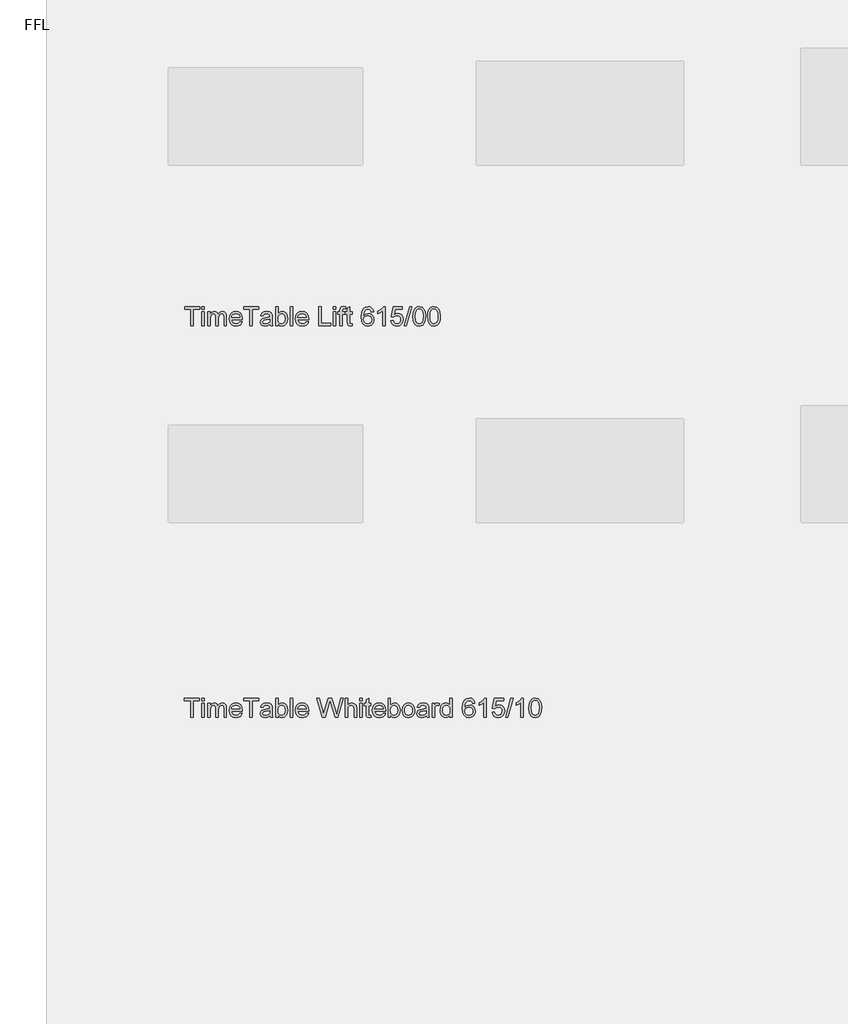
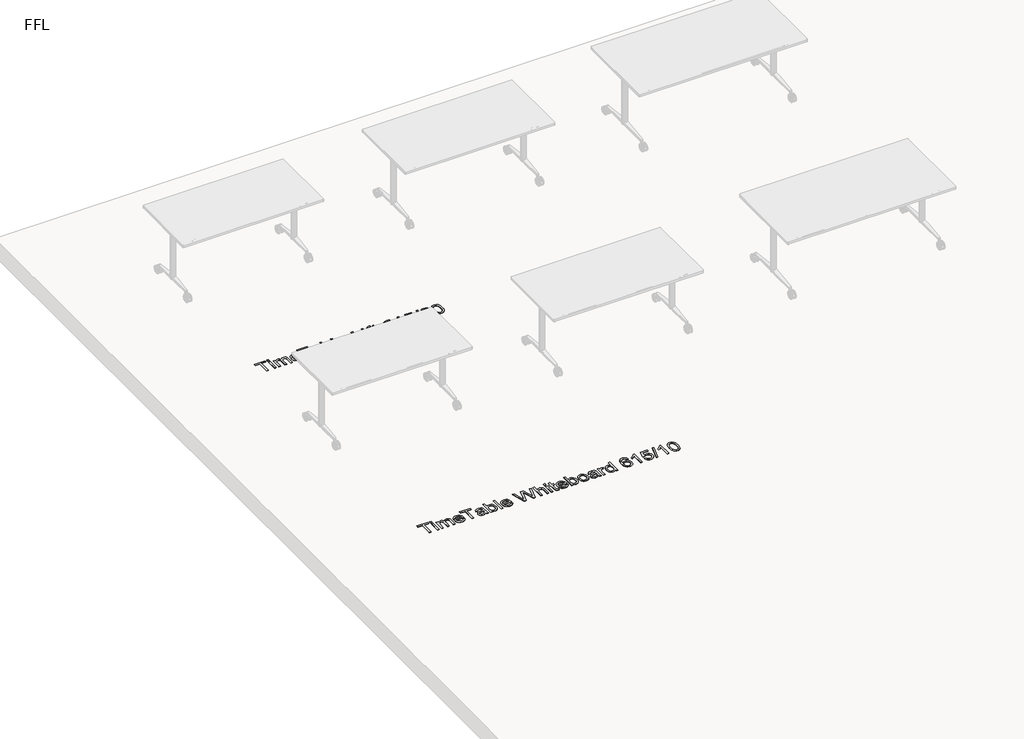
# One storey, part 5 of 5: 2 proxies.
"""IFC4 building model written with IfcOpenShell, lengths in millimetres."""

from ifc_helpers import new_model, si_unit, origin, origin_with_axes, place, context, project, spatial, polyline, outline, extrude, element, save

model = new_model("IFC4")

# Units and contexts
model_context = context("Model", 3, world=origin())
ifc_project = project(units=[si_unit("LENGTHUNIT", "METRE", prefix="MILLI")], contexts=[model_context])

# Site, building, storey
site = spatial("IfcSite", under=ifc_project)
building = spatial("IfcBuilding", under=site)
storey = spatial("IfcBuildingStorey", under=building, Name="FFL", Elevation=0.0)

# Proxies
placement = place(None, origin())
element("IfcBuildingElementProxy", 1, Name="150mm Arial", ObjectType="150mm Arial", at=placement, inside=storey, context=model_context, shape_type="SweptSolid", body=[
    extrude(outline(polyline([(-19155.1883904, 38735.6240351), (-19155.1883904, 38864.8548043), (-19203.6499289, 38864.8548043), (-19203.6499289, 38883.3163428), (-19088.2653135, 38883.3163428), (-19088.2653135, 38864.8548043), (-19136.726852, 38864.8548043), (-19136.726852, 38735.6240351), (-19155.1883904, 38735.6240351)])), origin_with_axes(), (0.0, 0.0, 1.0), 5.0),
    extrude(outline(polyline([(-19069.803775, 38864.8548043), (-19069.803775, 38883.3163428), (-19051.3422366, 38883.3163428), (-19051.3422366, 38864.8548043), (-19069.803775, 38864.8548043)])), origin_with_axes(), (0.0, 0.0, 1.0), 5.0),
    extrude(outline(polyline([(-19069.803775, 38735.6240351), (-19069.803775, 38844.0855736), (-19051.3422366, 38844.0855736), (-19051.3422366, 38735.6240351), (-19069.803775, 38735.6240351)])), origin_with_axes(), (0.0, 0.0, 1.0), 5.0),
    extrude(outline(polyline([(-19023.6499289, 38735.6240351), (-19023.6499289, 38844.0855736), (-19005.1883904, 38844.0855736), (-19005.1883904, 38826.2370159), (-18992.4960827, 38840.8584101), (-18974.4311789, 38846.3932659), (-18964.163751, 38844.9825086), (-18955.9335827, 38840.750237), (-18945.7653135, 38824.9389389), (-18931.3602654, 38841.0296841), (-18913.1691597, 38846.3932659), (-18899.2914553, 38844.1621961), (-18889.0285347, 38837.468987), (-18882.686888, 38826.13335), (-18880.5730058, 38809.9749966), (-18880.5730058, 38735.6240351), (-18899.0345443, 38735.6240351), (-18899.0345443, 38802.0423043), (-18900.7472847, 38817.4569678), (-18906.9492077, 38825.047112), (-18917.4960827, 38827.9317274), (-18927.4975851, 38826.0837707), (-18935.6511308, 38820.5399005), (-18941.0733063, 38810.9215111), (-18942.8806981, 38796.8499966), (-18942.8806981, 38735.6240351), (-18961.3422366, 38735.6240351), (-18961.3422366, 38804.0975928), (-18965.6150731, 38821.9822082), (-18971.2535948, 38826.4443476), (-18979.6234866, 38827.9317274), (-18993.289352, 38823.9653812), (-19002.3758904, 38812.3548043), (-19005.1883904, 38790.3235543), (-19005.1883904, 38735.6240351), (-19023.6499289, 38735.6240351)])), origin_with_axes(), (0.0, 0.0, 1.0), 5.0),
    extrude(outline(polyline([(-18776.9431981, 38767.9317274), (-18758.8422366, 38765.6240351), (-18765.3641717, 38751.985213), (-18775.7713231, 38741.7899005), (-18789.8293159, 38735.4347322), (-18807.303775, 38733.3163428), (-18828.9654337, 38736.9716913), (-18845.633102, 38747.937737), (-18856.2611068, 38765.5023404), (-18859.803775, 38788.953362), (-18856.2250491, 38813.1931457), (-18845.4888712, 38831.3211505), (-18829.0465635, 38842.625237), (-18808.3494481, 38846.3932659), (-18788.296864, 38842.6342514), (-18772.273727, 38831.3572082), (-18761.7674169, 38813.2652611), (-18758.2653135, 38789.0615351), (-18758.3734866, 38784.0855736), (-18841.3422366, 38784.0855736), (-18838.1466236, 38770.266463), (-18830.7232462, 38760.1072082), (-18820.0096044, 38753.860213), (-18806.9431981, 38751.7778812), (-18788.8422366, 38755.6360543), (-18776.9431981, 38767.9317274)]), holes=[polyline([(-18841.3422366, 38802.547112), (-18776.726852, 38802.547112), (-18779.2238472, 38812.3007178), (-18784.1186789, 38819.2778812), (-18794.8819, 38825.7682659), (-18808.4215635, 38827.9317274), (-18820.8659746, 38826.2054654), (-18831.1559385, 38821.0266793), (-18838.3088832, 38812.9542635), (-18841.3422366, 38802.547112)])]), origin_with_axes(), (0.0, 0.0, 1.0), 5.0),
    extrude(outline(polyline([(-18700.5730058, 38735.6240351), (-18700.5730058, 38864.8548043), (-18749.0345443, 38864.8548043), (-18749.0345443, 38883.3163428), (-18633.6499289, 38883.3163428), (-18633.6499289, 38864.8548043), (-18682.1114673, 38864.8548043), (-18682.1114673, 38735.6240351), (-18700.5730058, 38735.6240351)])), origin_with_axes(), (0.0, 0.0, 1.0), 5.0),
    extrude(outline(polyline([(-18545.9576212, 38749.4701889), (-18563.8602654, 38736.9581697), (-18583.6379097, 38733.3163428), (-18599.0660948, 38735.5068476), (-18610.4468039, 38742.078362), (-18617.4645323, 38752.0573284), (-18619.803775, 38764.4701889), (-18616.2701212, 38779.0735543), (-18606.9852654, 38789.6745159), (-18594.0585827, 38795.7322082), (-18578.085025, 38798.5086505), (-18546.0657943, 38804.8548043), (-18545.9576212, 38808.9653812), (-18547.2286548, 38817.2045639), (-18551.0417558, 38822.5951889), (-18559.5694, 38826.5975928), (-18571.4504097, 38827.9317274), (-18590.1282943, 38824.3800447), (-18599.0345443, 38811.7778812), (-18617.4960827, 38814.0855736), (-18609.5093039, 38832.1144197), (-18593.4275731, 38842.6793236), (-18569.070602, 38846.3932659), (-18546.6968039, 38843.1120159), (-18534.0585827, 38834.8728332), (-18528.397525, 38822.3427851), (-18527.4960827, 38806.1889389), (-18527.4960827, 38783.2201889), (-18526.5585827, 38751.1468716), (-18522.8806981, 38735.6240351), (-18541.3422366, 38735.6240351), (-18545.9576212, 38749.4701889)]), holes=[polyline([(-18545.9576212, 38786.3932659), (-18575.741275, 38780.7322082), (-18591.6246885, 38777.7394197), (-18598.8181981, 38772.8716312), (-18601.3422366, 38765.7682659), (-18595.8434385, 38755.7802851), (-18579.7076212, 38751.7778812), (-18561.0297366, 38756.1949486), (-18548.9864673, 38766.8860543), (-18546.0657943, 38781.1649005), (-18545.9576212, 38786.3932659)])]), origin_with_axes(), (0.0, 0.0, 1.0), 5.0),
    extrude(outline(polyline([(-18483.6499289, 38735.6240351), (-18502.1114673, 38735.6240351), (-18502.1114673, 38883.3163428), (-18483.6499289, 38883.3163428), (-18483.6499289, 38828.5447082), (-18470.7232462, 38841.9311264), (-18454.6595443, 38846.3932659), (-18436.1619481, 38842.3728332), (-18421.8109866, 38831.0687466), (-18412.9948808, 38813.4906216), (-18409.803775, 38791.4774005), (-18413.1075611, 38766.8319678), (-18423.0189193, 38748.4966312), (-18437.5636909, 38737.1114149), (-18454.7677173, 38733.3163428), (-18471.1829818, 38738.2111745), (-18483.6499289, 38752.8956697), (-18483.6499289, 38735.6240351)]), holes=[polyline([(-18483.6499289, 38790.6120159), (-18482.3879097, 38775.2153812), (-18478.601852, 38764.7947082), (-18468.929376, 38755.032088), (-18456.3542558, 38751.7778812), (-18445.6992077, 38754.1757178), (-18436.5946404, 38761.3692274), (-18430.3476452, 38773.313338), (-18428.2653135, 38789.9629774), (-18430.2620082, 38806.8560062), (-18436.2520923, 38818.6649005), (-18445.0727053, 38825.6150207), (-18455.5609866, 38827.9317274), (-18466.2160347, 38825.5338909), (-18475.320602, 38818.3403812), (-18481.5675972, 38806.6126168), (-18483.6499289, 38790.6120159)])]), origin_with_axes(), (0.0, 0.0, 1.0), 5.0),
    extrude(outline(polyline([(-18389.0345443, 38735.6240351), (-18389.0345443, 38883.3163428), (-18370.5730058, 38883.3163428), (-18370.5730058, 38735.6240351), (-18389.0345443, 38735.6240351)])), origin_with_axes(), (0.0, 0.0, 1.0), 5.0),
    extrude(outline(polyline([(-18266.9431981, 38767.9317274), (-18248.8422366, 38765.6240351), (-18255.3641717, 38751.985213), (-18265.7713231, 38741.7899005), (-18279.8293159, 38735.4347322), (-18297.303775, 38733.3163428), (-18318.9654337, 38736.9716913), (-18335.633102, 38747.937737), (-18346.2611068, 38765.5023404), (-18349.803775, 38788.953362), (-18346.2250491, 38813.1931457), (-18335.4888712, 38831.3211505), (-18319.0465635, 38842.625237), (-18298.3494481, 38846.3932659), (-18278.296864, 38842.6342514), (-18262.273727, 38831.3572082), (-18251.7674169, 38813.2652611), (-18248.2653135, 38789.0615351), (-18248.3734866, 38784.0855736), (-18331.3422366, 38784.0855736), (-18328.1466236, 38770.266463), (-18320.7232462, 38760.1072082), (-18310.0096044, 38753.860213), (-18296.9431981, 38751.7778812), (-18278.8422366, 38755.6360543), (-18266.9431981, 38767.9317274)]), holes=[polyline([(-18331.3422366, 38802.547112), (-18266.726852, 38802.547112), (-18269.2238472, 38812.3007178), (-18274.1186789, 38819.2778812), (-18284.8819, 38825.7682659), (-18298.4215635, 38827.9317274), (-18310.8659746, 38826.2054654), (-18321.1559385, 38821.0266793), (-18328.3088832, 38812.9542635), (-18331.3422366, 38802.547112)])]), origin_with_axes(), (0.0, 0.0, 1.0), 5.0),
    extrude(outline(polyline([(-18169.803775, 38735.6240351), (-18169.803775, 38883.3163428), (-18151.3422366, 38883.3163428), (-18151.3422366, 38754.0855736), (-18077.4960827, 38754.0855736), (-18077.4960827, 38735.6240351), (-18169.803775, 38735.6240351)])), origin_with_axes(), (0.0, 0.0, 1.0), 5.0),
    extrude(outline(polyline([(-18059.0345443, 38864.8548043), (-18059.0345443, 38883.3163428), (-18040.5730058, 38883.3163428), (-18040.5730058, 38864.8548043), (-18059.0345443, 38864.8548043)])), origin_with_axes(), (0.0, 0.0, 1.0), 5.0),
    extrude(outline(polyline([(-18059.0345443, 38735.6240351), (-18059.0345443, 38844.0855736), (-18040.5730058, 38844.0855736), (-18040.5730058, 38735.6240351), (-18059.0345443, 38735.6240351)])), origin_with_axes(), (0.0, 0.0, 1.0), 5.0),
    extrude(outline(polyline([(-18008.2653135, 38735.6240351), (-18008.2653135, 38825.6240351), (-18024.4191597, 38825.6240351), (-18024.4191597, 38844.0855736), (-18008.2653135, 38844.0855736), (-18008.2653135, 38855.0110543), (-18006.3181981, 38870.4076889), (-17996.8710827, 38881.4052851), (-17978.2653135, 38885.6240351), (-17961.4263712, 38883.6048043), (-17964.1306981, 38866.297112), (-17974.7677173, 38867.1624966), (-17986.3963231, 38864.0975928), (-17989.803775, 38852.6673043), (-17989.803775, 38844.0855736), (-17969.0345443, 38844.0855736), (-17969.0345443, 38825.6240351), (-17989.803775, 38825.6240351), (-17989.803775, 38735.6240351), (-18008.2653135, 38735.6240351)])), origin_with_axes(), (0.0, 0.0, 1.0), 5.0),
    extrude(outline(polyline([(-17913.6499289, 38751.0206697), (-17911.3422366, 38735.0831697), (-17925.1523327, 38733.3163428), (-17940.6210827, 38736.3812466), (-17948.3374289, 38744.422112), (-17950.5730058, 38765.3716312), (-17950.5730058, 38825.6240351), (-17964.4191597, 38825.6240351), (-17964.4191597, 38844.0855736), (-17950.5730058, 38844.0855736), (-17950.5730058, 38870.4437466), (-17932.1114673, 38881.297112), (-17932.1114673, 38844.0855736), (-17913.6499289, 38844.0855736), (-17913.6499289, 38825.6240351), (-17932.1114673, 38825.6240351), (-17932.1114673, 38765.9124966), (-17931.1379097, 38756.3932659), (-17927.9828616, 38753.0218716), (-17921.6907943, 38751.7778812), (-17913.6499289, 38751.0206697)])), origin_with_axes(), (0.0, 0.0, 1.0), 5.0),
    extrude(outline(polyline([(-17747.4960827, 38844.0855736), (-17765.9576212, 38841.7778812), (-17772.9528135, 38857.1745159), (-17781.3272125, 38862.9347322), (-17791.4504097, 38864.8548043), (-17808.1090635, 38860.3836505), (-17820.711227, 38843.5987947), (-17824.5378496, 38829.8472923), (-17825.9576212, 38810.6961505), (-17809.6775731, 38825.4257178), (-17789.5032943, 38830.2394197), (-17772.4480058, 38826.9491553), (-17758.133102, 38817.078362), (-17748.4245683, 38801.9972322), (-17745.1883904, 38783.0759582), (-17746.7118279, 38769.8563067), (-17751.2821404, 38757.6011986), (-17758.5207222, 38747.2075687), (-17768.0489673, 38739.5723524), (-17779.4341837, 38734.8803452), (-17792.2436789, 38733.3163428), (-17813.1886909, 38737.4629774), (-17829.8698808, 38749.9028812), (-17840.7818399, 38771.8620159), (-17844.4191597, 38804.5663428), (-17840.3806981, 38841.3361745), (-17828.2653135, 38866.4774005), (-17811.7238472, 38879.1066072), (-17790.2965635, 38883.3163428), (-17774.0976452, 38880.7111745), (-17761.1258904, 38872.8956697), (-17752.039352, 38860.4828091), (-17747.4960827, 38844.0855736)]), holes=[polyline([(-17825.9576212, 38783.3644197), (-17821.6847847, 38767.3728332), (-17810.3266116, 38755.7622562), (-17793.6859866, 38751.7778812), (-17781.5029938, 38753.8421841), (-17771.9251693, 38760.0350928), (-17765.718739, 38769.7706697), (-17763.6499289, 38782.4629774), (-17765.6916957, 38794.6459702), (-17771.8169962, 38803.9353332), (-17781.5570803, 38809.8172442), (-17794.4431981, 38811.7778812), (-17806.6081621, 38809.8172442), (-17816.7809385, 38803.9353332), (-17823.6634505, 38794.8713308), (-17825.9576212, 38783.3644197)])]), origin_with_axes(), (0.0, 0.0, 1.0), 5.0),
    extrude(outline(polyline([(-17659.803775, 38735.6240351), (-17678.2653135, 38735.6240351), (-17678.2653135, 38850.7201889), (-17695.7532943, 38838.2622562), (-17715.1883904, 38828.9413428), (-17715.1883904, 38846.3932659), (-17688.1270923, 38863.6649005), (-17671.7028135, 38883.3163428), (-17659.803775, 38883.3163428), (-17659.803775, 38735.6240351)])), origin_with_axes(), (0.0, 0.0, 1.0), 5.0),
    extrude(outline(polyline([(-17615.9576212, 38774.8548043), (-17597.4960827, 38777.1624966), (-17594.1066597, 38766.0792635), (-17588.1931981, 38758.1420639), (-17579.7827414, 38753.3689269), (-17568.9023327, 38751.7778812), (-17555.6691597, 38753.9909221), (-17545.7532943, 38760.6300447), (-17539.5603856, 38770.9290231), (-17537.4960827, 38784.1216312), (-17539.4296765, 38796.5435062), (-17545.2304577, 38806.0447082), (-17554.9434986, 38812.0753572), (-17568.6138712, 38814.0855736), (-17584.8218039, 38810.8764389), (-17595.1883904, 38802.547112), (-17613.6499289, 38804.8548043), (-17597.4960827, 38881.0086505), (-17525.9576212, 38881.0086505), (-17525.9576212, 38862.547112), (-17582.5681981, 38862.547112), (-17590.4648327, 38821.8740351), (-17577.2767318, 38829.8788428), (-17563.4576212, 38832.547112), (-17546.2085226, 38829.2388187), (-17531.8891116, 38819.3139389), (-17522.2481861, 38804.187737), (-17519.0345443, 38785.2754774), (-17521.9281741, 38766.8139389), (-17530.6090635, 38751.0206697), (-17547.2316597, 38737.7424245), (-17568.9744481, 38733.3163428), (-17587.1069601, 38736.1603933), (-17601.5525731, 38744.6925447), (-17611.4549169, 38757.9212106), (-17615.9576212, 38774.8548043)])), origin_with_axes(), (0.0, 0.0, 1.0), 5.0),
    extrude(outline(polyline([(-17512.1114673, 38735.6240351), (-17470.5730058, 38883.3163428), (-17453.914352, 38883.3163428), (-17495.4528135, 38735.6240351), (-17512.1114673, 38735.6240351)])), origin_with_axes(), (0.0, 0.0, 1.0), 5.0),
    extrude(outline(polyline([(-17445.1883904, 38808.2802851), (-17443.8317198, 38831.9206096), (-17439.7617077, 38850.7742755), (-17433.0189193, 38865.1297442), (-17423.6439193, 38875.2754774), (-17411.5690996, 38881.3061264), (-17396.726852, 38883.3163428), (-17375.164352, 38878.5567274), (-17360.272525, 38864.8367755), (-17351.6186789, 38842.9858139), (-17348.2653135, 38808.2802851), (-17349.6084625, 38784.7751769), (-17353.6379097, 38765.9665832), (-17360.3401332, 38751.5975928), (-17369.7016116, 38741.4112947), (-17381.8034746, 38735.3400808), (-17396.726852, 38733.3163428), (-17415.9095443, 38736.8319678), (-17430.476852, 38747.3788428), (-17441.5105058, 38772.3578091), (-17445.1883904, 38808.2802851)]), holes=[polyline([(-17426.726852, 38808.3163428), (-17424.5633904, 38779.2763788), (-17418.0730058, 38762.468987), (-17408.4095443, 38754.4506577), (-17396.726852, 38751.7778812), (-17385.0441597, 38754.4596721), (-17375.3806981, 38762.5050447), (-17368.8903135, 38779.321451), (-17366.726852, 38808.3163428), (-17368.8181981, 38836.7027611), (-17375.0922366, 38853.640862), (-17384.7376693, 38862.0513187), (-17396.9431981, 38864.8548043), (-17408.4996885, 38862.3848524), (-17417.7845443, 38854.9749966), (-17424.491275, 38836.9822082), (-17426.726852, 38808.3163428)])]), origin_with_axes(), (0.0, 0.0, 1.0), 5.0),
    extrude(outline(polyline([(-17332.1114673, 38808.2802851), (-17330.7547967, 38831.9206096), (-17326.6847847, 38850.7742755), (-17319.9419962, 38865.1297442), (-17310.5669962, 38875.2754774), (-17298.4921765, 38881.3061264), (-17283.6499289, 38883.3163428), (-17262.0874289, 38878.5567274), (-17247.195602, 38864.8367755), (-17238.5417558, 38842.9858139), (-17235.1883904, 38808.2802851), (-17236.5315395, 38784.7751769), (-17240.5609866, 38765.9665832), (-17247.2632101, 38751.5975928), (-17256.6246885, 38741.4112947), (-17268.7265515, 38735.3400808), (-17283.6499289, 38733.3163428), (-17302.8326212, 38736.8319678), (-17317.3999289, 38747.3788428), (-17328.4335827, 38772.3578091), (-17332.1114673, 38808.2802851)]), holes=[polyline([(-17313.6499289, 38808.3163428), (-17311.4864673, 38779.2763788), (-17304.9960827, 38762.468987), (-17295.3326212, 38754.4506577), (-17283.6499289, 38751.7778812), (-17271.9672366, 38754.4596721), (-17262.303775, 38762.5050447), (-17255.8133904, 38779.321451), (-17253.6499289, 38808.3163428), (-17255.741275, 38836.7027611), (-17262.0153135, 38853.640862), (-17271.6607462, 38862.0513187), (-17283.866275, 38864.8548043), (-17295.4227654, 38862.3848524), (-17304.7076212, 38854.9749966), (-17311.414352, 38836.9822082), (-17313.6499289, 38808.3163428)])]), origin_with_axes(), (0.0, 0.0, 1.0), 5.0),
])
element("IfcBuildingElementProxy", 2, Name="150mm Arial", ObjectType="150mm Arial", at=placement, inside=storey, context=model_context, shape_type="SweptSolid", body=[
    extrude(outline(polyline([(-19155.3912892, 35721.8865096), (-19155.3912892, 35851.1172788), (-19203.8528277, 35851.1172788), (-19203.8528277, 35869.5788173), (-19088.4682123, 35869.5788173), (-19088.4682123, 35851.1172788), (-19136.9297507, 35851.1172788), (-19136.9297507, 35721.8865096), (-19155.3912892, 35721.8865096)])), origin_with_axes(), (0.0, 0.0, 1.0), 5.0),
    extrude(outline(polyline([(-19070.0066738, 35851.1172788), (-19070.0066738, 35869.5788173), (-19051.5451354, 35869.5788173), (-19051.5451354, 35851.1172788), (-19070.0066738, 35851.1172788)])), origin_with_axes(), (0.0, 0.0, 1.0), 5.0),
    extrude(outline(polyline([(-19070.0066738, 35721.8865096), (-19070.0066738, 35830.348048), (-19051.5451354, 35830.348048), (-19051.5451354, 35721.8865096), (-19070.0066738, 35721.8865096)])), origin_with_axes(), (0.0, 0.0, 1.0), 5.0),
    extrude(outline(polyline([(-19023.8528277, 35721.8865096), (-19023.8528277, 35830.348048), (-19005.3912892, 35830.348048), (-19005.3912892, 35812.4994903), (-18992.6989815, 35827.1208846), (-18974.6340777, 35832.6557403), (-18964.3666498, 35831.2449831), (-18956.1364815, 35827.0127115), (-18945.9682123, 35811.2014134), (-18931.5631642, 35827.2921586), (-18913.3720584, 35832.6557403), (-18899.4943541, 35830.4246706), (-18889.2314334, 35823.7314615), (-18882.8897868, 35812.3958245), (-18880.7759046, 35796.2374711), (-18880.7759046, 35721.8865096), (-18899.237443, 35721.8865096), (-18899.237443, 35788.3047788), (-18900.9501834, 35803.7194423), (-18907.1521065, 35811.3095865), (-18917.6989815, 35814.1942019), (-18927.7004839, 35812.3462451), (-18935.8540296, 35806.802375), (-18941.2762051, 35797.1839855), (-18943.0835969, 35783.1124711), (-18943.0835969, 35721.8865096), (-18961.5451354, 35721.8865096), (-18961.5451354, 35790.3600673), (-18965.8179719, 35808.2446826), (-18971.4564935, 35812.7068221), (-18979.8263854, 35814.1942019), (-18993.4922507, 35810.2278557), (-19002.5787892, 35798.6172788), (-19005.3912892, 35776.5860288), (-19005.3912892, 35721.8865096), (-19023.8528277, 35721.8865096)])), origin_with_axes(), (0.0, 0.0, 1.0), 5.0),
    extrude(outline(polyline([(-18777.1460969, 35754.1942019), (-18759.0451354, 35751.8865096), (-18765.5670704, 35738.2476875), (-18775.9742219, 35728.052375), (-18790.0322147, 35721.6972067), (-18807.5066738, 35719.5788173), (-18829.1683325, 35723.2341658), (-18845.8360007, 35734.2002115), (-18856.4640055, 35751.7648149), (-18860.0066738, 35775.2158365), (-18856.4279479, 35799.4556201), (-18845.69177, 35817.583625), (-18829.2494623, 35828.8877115), (-18808.5523469, 35832.6557403), (-18788.4997628, 35828.8967259), (-18772.4766257, 35817.6196826), (-18761.9703156, 35799.5277355), (-18758.4682123, 35775.3240096), (-18758.5763854, 35770.348048), (-18841.5451354, 35770.348048), (-18838.3495224, 35756.5289375), (-18830.926145, 35746.3696826), (-18820.2125031, 35740.1226875), (-18807.1460969, 35738.0403557), (-18789.0451354, 35741.8985288), (-18777.1460969, 35754.1942019)]), holes=[polyline([(-18841.5451354, 35788.8095865), (-18776.9297507, 35788.8095865), (-18779.4267459, 35798.5631923), (-18784.3215777, 35805.5403557), (-18795.0847988, 35812.0307403), (-18808.6244623, 35814.1942019), (-18821.0688733, 35812.4679399), (-18831.3588373, 35807.2891538), (-18838.511782, 35799.2167379), (-18841.5451354, 35788.8095865)])]), origin_with_axes(), (0.0, 0.0, 1.0), 5.0),
    extrude(outline(polyline([(-18700.7759046, 35721.8865096), (-18700.7759046, 35851.1172788), (-18749.237443, 35851.1172788), (-18749.237443, 35869.5788173), (-18633.8528277, 35869.5788173), (-18633.8528277, 35851.1172788), (-18682.3143661, 35851.1172788), (-18682.3143661, 35721.8865096), (-18700.7759046, 35721.8865096)])), origin_with_axes(), (0.0, 0.0, 1.0), 5.0),
    extrude(outline(polyline([(-18546.16052, 35735.7326634), (-18564.0631642, 35723.2206442), (-18583.8408084, 35719.5788173), (-18599.2689935, 35721.7693221), (-18610.6497027, 35728.3408365), (-18617.667431, 35738.3198028), (-18620.0066738, 35750.7326634), (-18616.47302, 35765.3360288), (-18607.1881642, 35775.9369903), (-18594.2614815, 35781.9946826), (-18578.2879238, 35784.771125), (-18546.268693, 35791.1172788), (-18546.16052, 35795.2278557), (-18547.4315536, 35803.4670384), (-18551.2446546, 35808.8576634), (-18559.7722988, 35812.8600673), (-18571.6533084, 35814.1942019), (-18590.331193, 35810.6425192), (-18599.237443, 35798.0403557), (-18617.6989815, 35800.348048), (-18609.7122027, 35818.3768942), (-18593.6304719, 35828.941798), (-18569.2735007, 35832.6557403), (-18546.8997027, 35829.3744903), (-18534.2614815, 35821.1353076), (-18528.6004238, 35808.6052596), (-18527.6989815, 35792.4514134), (-18527.6989815, 35769.4826634), (-18526.7614815, 35737.4093461), (-18523.0835969, 35721.8865096), (-18541.5451354, 35721.8865096), (-18546.16052, 35735.7326634)]), holes=[polyline([(-18546.16052, 35772.6557403), (-18575.9441738, 35766.9946826), (-18591.8275873, 35764.0018942), (-18599.0210969, 35759.1341057), (-18601.5451354, 35752.0307403), (-18596.0463373, 35742.0427596), (-18579.91052, 35738.0403557), (-18561.2326354, 35742.457423), (-18549.1893661, 35753.1485288), (-18546.268693, 35767.427375), (-18546.16052, 35772.6557403)])]), origin_with_axes(), (0.0, 0.0, 1.0), 5.0),
    extrude(outline(polyline([(-18483.8528277, 35721.8865096), (-18502.3143661, 35721.8865096), (-18502.3143661, 35869.5788173), (-18483.8528277, 35869.5788173), (-18483.8528277, 35814.8071826), (-18470.926145, 35828.1936009), (-18454.862443, 35832.6557403), (-18436.3648469, 35828.6353076), (-18422.0138854, 35817.3312211), (-18413.1977796, 35799.7530961), (-18410.0066738, 35777.739875), (-18413.3104599, 35753.0944423), (-18423.221818, 35734.7591057), (-18437.7665897, 35723.3738894), (-18454.9706161, 35719.5788173), (-18471.3858805, 35724.473649), (-18483.8528277, 35739.1581442), (-18483.8528277, 35721.8865096)]), holes=[polyline([(-18483.8528277, 35776.8744903), (-18482.5908084, 35761.4778557), (-18478.8047507, 35751.0571826), (-18469.1322748, 35741.2945625), (-18456.5571546, 35738.0403557), (-18445.9021065, 35740.4381923), (-18436.7975392, 35747.6317019), (-18430.550544, 35759.5758125), (-18428.4682123, 35776.2254519), (-18430.464907, 35793.1184807), (-18436.4549911, 35804.927375), (-18445.2756041, 35811.8774951), (-18455.7638854, 35814.1942019), (-18466.4189334, 35811.7963653), (-18475.5235007, 35804.6028557), (-18481.7704959, 35792.8750913), (-18483.8528277, 35776.8744903)])]), origin_with_axes(), (0.0, 0.0, 1.0), 5.0),
    extrude(outline(polyline([(-18389.237443, 35721.8865096), (-18389.237443, 35869.5788173), (-18370.7759046, 35869.5788173), (-18370.7759046, 35721.8865096), (-18389.237443, 35721.8865096)])), origin_with_axes(), (0.0, 0.0, 1.0), 5.0),
    extrude(outline(polyline([(-18267.1460969, 35754.1942019), (-18249.0451354, 35751.8865096), (-18255.5670704, 35738.2476875), (-18265.9742219, 35728.052375), (-18280.0322147, 35721.6972067), (-18297.5066738, 35719.5788173), (-18319.1683325, 35723.2341658), (-18335.8360007, 35734.2002115), (-18346.4640055, 35751.7648149), (-18350.0066738, 35775.2158365), (-18346.4279479, 35799.4556201), (-18335.69177, 35817.583625), (-18319.2494623, 35828.8877115), (-18298.5523469, 35832.6557403), (-18278.4997628, 35828.8967259), (-18262.4766257, 35817.6196826), (-18251.9703156, 35799.5277355), (-18248.4682123, 35775.3240096), (-18248.5763854, 35770.348048), (-18331.5451354, 35770.348048), (-18328.3495224, 35756.5289375), (-18320.926145, 35746.3696826), (-18310.2125031, 35740.1226875), (-18297.1460969, 35738.0403557), (-18279.0451354, 35741.8985288), (-18267.1460969, 35754.1942019)]), holes=[polyline([(-18331.5451354, 35788.8095865), (-18266.9297507, 35788.8095865), (-18269.4267459, 35798.5631923), (-18274.3215777, 35805.5403557), (-18285.0847988, 35812.0307403), (-18298.6244623, 35814.1942019), (-18311.0688733, 35812.4679399), (-18321.3588373, 35807.2891538), (-18328.511782, 35799.2167379), (-18331.5451354, 35788.8095865)])]), origin_with_axes(), (0.0, 0.0, 1.0), 5.0),
    extrude(outline(polyline([(-18143.5763854, 35721.8865096), (-18183.8528277, 35869.5788173), (-18164.8143661, 35869.5788173), (-18141.4489815, 35772.5115096), (-18134.237443, 35742.5475673), (-18126.5210969, 35769.0499711), (-18097.2422507, 35869.5788173), (-18069.8023469, 35869.5788173), (-18048.5283084, 35796.7062211), (-18032.6989815, 35742.5475673), (-18025.7037892, 35771.646125), (-18002.1220584, 35869.5788173), (-17983.0835969, 35869.5788173), (-18023.3960969, 35721.8865096), (-18043.1196546, 35721.8865096), (-18078.5283084, 35835.8288173), (-18083.4682123, 35851.7302596), (-18089.0210969, 35832.583625), (-18121.2927315, 35721.8865096), (-18143.5763854, 35721.8865096)])), origin_with_axes(), (0.0, 0.0, 1.0), 5.0),
    extrude(outline(polyline([(-17966.9297507, 35721.8865096), (-17966.9297507, 35869.5788173), (-17948.4682123, 35869.5788173), (-17948.4682123, 35815.2759326), (-17934.0721786, 35828.3107884), (-17916.3408084, 35832.6557403), (-17895.6076354, 35827.9141538), (-17883.0235007, 35814.8071826), (-17879.237443, 35790.5403557), (-17879.237443, 35721.8865096), (-17897.6989815, 35721.8865096), (-17897.6989815, 35788.629298), (-17899.1683325, 35800.1857884), (-17903.5763854, 35808.1004519), (-17910.6797507, 35812.6707644), (-17920.2350392, 35814.1942019), (-17935.3612411, 35810.083625), (-17945.457395, 35798.941798), (-17948.4682123, 35779.5067019), (-17948.4682123, 35721.8865096), (-17966.9297507, 35721.8865096)])), origin_with_axes(), (0.0, 0.0, 1.0), 5.0),
    extrude(outline(polyline([(-17853.8528277, 35721.8865096), (-17853.8528277, 35830.348048), (-17835.3912892, 35830.348048), (-17835.3912892, 35721.8865096), (-17853.8528277, 35721.8865096)])), origin_with_axes(), (0.0, 0.0, 1.0), 5.0),
    extrude(outline(polyline([(-17853.8528277, 35851.1172788), (-17853.8528277, 35869.5788173), (-17835.3912892, 35869.5788173), (-17835.3912892, 35851.1172788), (-17853.8528277, 35851.1172788)])), origin_with_axes(), (0.0, 0.0, 1.0), 5.0),
    extrude(outline(polyline([(-17768.4682123, 35737.2831442), (-17766.16052, 35721.3456442), (-17779.9706161, 35719.5788173), (-17795.4393661, 35722.6437211), (-17803.1557123, 35730.6845865), (-17805.3912892, 35751.6341057), (-17805.3912892, 35811.8865096), (-17819.237443, 35811.8865096), (-17819.237443, 35830.348048), (-17805.3912892, 35830.348048), (-17805.3912892, 35856.7062211), (-17786.9297507, 35867.5595865), (-17786.9297507, 35830.348048), (-17768.4682123, 35830.348048), (-17768.4682123, 35811.8865096), (-17786.9297507, 35811.8865096), (-17786.9297507, 35752.1749711), (-17785.956193, 35742.6557403), (-17782.801145, 35739.2843461), (-17776.5090777, 35738.0403557), (-17768.4682123, 35737.2831442)])), origin_with_axes(), (0.0, 0.0, 1.0), 5.0),
    extrude(outline(polyline([(-17674.0691738, 35754.1942019), (-17655.9682123, 35751.8865096), (-17662.4901474, 35738.2476875), (-17672.8972988, 35728.052375), (-17686.9552916, 35721.6972067), (-17704.4297507, 35719.5788173), (-17726.0914094, 35723.2341658), (-17742.7590777, 35734.2002115), (-17753.3870825, 35751.7648149), (-17756.9297507, 35775.2158365), (-17753.3510248, 35799.4556201), (-17742.6148469, 35817.583625), (-17726.1725392, 35828.8877115), (-17705.4754238, 35832.6557403), (-17685.4228397, 35828.8967259), (-17669.3997027, 35817.6196826), (-17658.8933926, 35799.5277355), (-17655.3912892, 35775.3240096), (-17655.4994623, 35770.348048), (-17738.4682123, 35770.348048), (-17735.2725993, 35756.5289375), (-17727.8492219, 35746.3696826), (-17717.1355801, 35740.1226875), (-17704.0691738, 35738.0403557), (-17685.9682123, 35741.8985288), (-17674.0691738, 35754.1942019)]), holes=[polyline([(-17738.4682123, 35788.8095865), (-17673.8528277, 35788.8095865), (-17676.3498229, 35798.5631923), (-17681.2446546, 35805.5403557), (-17692.0078757, 35812.0307403), (-17705.5475392, 35814.1942019), (-17717.9919503, 35812.4679399), (-17728.2819142, 35807.2891538), (-17735.4348589, 35799.2167379), (-17738.4682123, 35788.8095865)])]), origin_with_axes(), (0.0, 0.0, 1.0), 5.0),
    extrude(outline(polyline([(-17618.4682123, 35721.8865096), (-17636.9297507, 35721.8865096), (-17636.9297507, 35869.5788173), (-17618.4682123, 35869.5788173), (-17618.4682123, 35814.8071826), (-17605.5415296, 35828.1936009), (-17589.4778277, 35832.6557403), (-17570.9802315, 35828.6353076), (-17556.62927, 35817.3312211), (-17547.8131642, 35799.7530961), (-17544.6220584, 35777.739875), (-17547.9258445, 35753.0944423), (-17557.8372027, 35734.7591057), (-17572.3819743, 35723.3738894), (-17589.5860007, 35719.5788173), (-17606.0012652, 35724.473649), (-17618.4682123, 35739.1581442), (-17618.4682123, 35721.8865096)]), holes=[polyline([(-17618.4682123, 35776.8744903), (-17617.206193, 35761.4778557), (-17613.4201354, 35751.0571826), (-17603.7476594, 35741.2945625), (-17591.1725392, 35738.0403557), (-17580.5174911, 35740.4381923), (-17571.4129238, 35747.6317019), (-17565.1659286, 35759.5758125), (-17563.0835969, 35776.2254519), (-17565.0802916, 35793.1184807), (-17571.0703757, 35804.927375), (-17579.8909887, 35811.8774951), (-17590.37927, 35814.1942019), (-17601.034318, 35811.7963653), (-17610.1388854, 35804.6028557), (-17616.3858805, 35792.8750913), (-17618.4682123, 35776.8744903)])]), origin_with_axes(), (0.0, 0.0, 1.0), 5.0),
    extrude(outline(polyline([(-17528.4682123, 35776.1172788), (-17524.4748229, 35802.2681201), (-17512.4946546, 35820.6485288), (-17497.6929719, 35829.6539375), (-17479.9706161, 35832.6557403), (-17460.5760849, 35829.0003918), (-17445.0847988, 35818.0343461), (-17434.9300512, 35800.6229879), (-17431.5451354, 35777.6317019), (-17433.0415296, 35758.9808605), (-17437.5307123, 35744.7831442), (-17444.8819743, 35734.1506322), (-17454.9646065, 35726.1954038), (-17466.9402676, 35721.2329639), (-17479.9706161, 35719.5788173), (-17499.5995224, 35723.2206442), (-17515.0727796, 35734.146125), (-17525.1193541, 35751.9225673), (-17528.4682123, 35776.1172788)]), holes=[polyline([(-17510.0066738, 35776.1533365), (-17507.8702555, 35759.4451033), (-17501.4610007, 35747.5415576), (-17491.815568, 35740.4156562), (-17479.9706161, 35738.0403557), (-17468.1797507, 35740.4291778), (-17458.5523469, 35747.5956442), (-17452.1430921, 35759.6569423), (-17450.0066738, 35776.7302596), (-17452.1566137, 35792.9517139), (-17458.6064334, 35804.693), (-17468.2473589, 35811.8189014), (-17479.9706161, 35814.1942019), (-17491.815568, 35811.8279158), (-17501.4610007, 35804.7290576), (-17507.8702555, 35792.8525552), (-17510.0066738, 35776.1533365)])]), origin_with_axes(), (0.0, 0.0, 1.0), 5.0),
    extrude(outline(polyline([(-17341.5451354, 35735.7326634), (-17359.4477796, 35723.2206442), (-17379.2254238, 35719.5788173), (-17394.6536089, 35721.7693221), (-17406.034318, 35728.3408365), (-17413.0520464, 35738.3198028), (-17415.3912892, 35750.7326634), (-17411.8576354, 35765.3360288), (-17402.5727796, 35775.9369903), (-17389.6460969, 35781.9946826), (-17373.6725392, 35784.771125), (-17341.6533084, 35791.1172788), (-17341.5451354, 35795.2278557), (-17342.816169, 35803.4670384), (-17346.62927, 35808.8576634), (-17355.1569142, 35812.8600673), (-17367.0379238, 35814.1942019), (-17385.7158084, 35810.6425192), (-17394.6220584, 35798.0403557), (-17413.0835969, 35800.348048), (-17405.096818, 35818.3768942), (-17389.0150873, 35828.941798), (-17364.6581161, 35832.6557403), (-17342.284318, 35829.3744903), (-17329.6460969, 35821.1353076), (-17323.9850392, 35808.6052596), (-17323.0835969, 35792.4514134), (-17323.0835969, 35769.4826634), (-17322.1460969, 35737.4093461), (-17318.4682123, 35721.8865096), (-17336.9297507, 35721.8865096), (-17341.5451354, 35735.7326634)]), holes=[polyline([(-17341.5451354, 35772.6557403), (-17371.3287892, 35766.9946826), (-17387.2122027, 35764.0018942), (-17394.4057123, 35759.1341057), (-17396.9297507, 35752.0307403), (-17391.4309527, 35742.0427596), (-17375.2951354, 35738.0403557), (-17356.6172507, 35742.457423), (-17344.5739815, 35753.1485288), (-17341.6533084, 35767.427375), (-17341.5451354, 35772.6557403)])]), origin_with_axes(), (0.0, 0.0, 1.0), 5.0),
    extrude(outline(polyline([(-17297.6989815, 35721.8865096), (-17297.6989815, 35830.348048), (-17281.5451354, 35830.348048), (-17281.5451354, 35814.302375), (-17270.0787892, 35829.0860288), (-17258.5403277, 35832.6557403), (-17240.0066738, 35826.958625), (-17246.1725392, 35810.4081442), (-17259.1533084, 35814.1942019), (-17269.5920104, 35810.552375), (-17276.2446546, 35800.4562211), (-17279.237443, 35778.8937211), (-17279.237443, 35721.8865096), (-17297.6989815, 35721.8865096)])), origin_with_axes(), (0.0, 0.0, 1.0), 5.0),
    extrude(outline(polyline([(-17161.5451354, 35721.8865096), (-17161.5451354, 35739.302375), (-17173.7596786, 35724.5097067), (-17190.643693, 35719.5788173), (-17202.5787892, 35721.363673), (-17213.50427, 35726.7182403), (-17222.753068, 35735.2684206), (-17229.6581161, 35746.6401153), (-17233.9579959, 35760.3735889), (-17235.3912892, 35776.0091057), (-17230.1088373, 35805.396125), (-17223.5102796, 35817.051774), (-17214.2795104, 35825.6244903), (-17203.1151474, 35830.8979278), (-17190.7158084, 35832.6557403), (-17173.6965777, 35827.6256923), (-17161.5451354, 35814.5547788), (-17161.5451354, 35869.5788173), (-17143.0835969, 35869.5788173), (-17143.0835969, 35721.8865096), (-17161.5451354, 35721.8865096)]), holes=[polyline([(-17216.9297507, 35776.0812211), (-17214.847419, 35759.3820024), (-17208.6004238, 35747.5055), (-17199.5228998, 35740.4066418), (-17188.9489815, 35738.0403557), (-17178.3795704, 35740.2984687), (-17169.5319142, 35747.0728076), (-17163.5418301, 35758.4895745), (-17161.5451354, 35774.6749711), (-17163.5778878, 35792.3702836), (-17169.676145, 35804.6389134), (-17178.7491618, 35811.8053798), (-17189.706193, 35814.1942019), (-17200.3882844, 35811.9000312), (-17209.1412892, 35805.0175192), (-17214.9826354, 35793.1951033), (-17216.9297507, 35776.0812211)])]), origin_with_axes(), (0.0, 0.0, 1.0), 5.0),
    extrude(outline(polyline([(-16967.6989815, 35830.348048), (-16986.16052, 35828.0403557), (-16993.1557123, 35843.4369903), (-17001.5301113, 35849.1972067), (-17011.6533084, 35851.1172788), (-17028.3119623, 35846.646125), (-17040.9141257, 35829.8612692), (-17044.7407483, 35816.1097668), (-17046.16052, 35796.958625), (-17029.8804719, 35811.6881923), (-17009.706193, 35816.5018942), (-16992.6509046, 35813.2116298), (-16978.3360007, 35803.3408365), (-16968.6274671, 35788.2597067), (-16965.3912892, 35769.3384326), (-16966.9147267, 35756.1187812), (-16971.4850392, 35743.863673), (-16978.7236209, 35733.4700432), (-16988.2518661, 35725.8348269), (-16999.6370825, 35721.1428197), (-17012.4465777, 35719.5788173), (-17033.3915897, 35723.7254519), (-17050.0727796, 35736.1653557), (-17060.9847387, 35758.1244903), (-17064.6220584, 35790.8288173), (-17060.5835969, 35827.598649), (-17048.4682123, 35852.739875), (-17031.9267459, 35865.3690817), (-17010.4994623, 35869.5788173), (-16994.300544, 35866.973649), (-16981.3287892, 35859.1581442), (-16972.2422507, 35846.7452836), (-16967.6989815, 35830.348048)]), holes=[polyline([(-17046.16052, 35769.6268942), (-17041.8876834, 35753.6353076), (-17030.5295104, 35742.0247307), (-17013.8888854, 35738.0403557), (-17001.7058926, 35740.1046586), (-16992.128068, 35746.2975673), (-16985.9216378, 35756.0331442), (-16983.8528277, 35768.7254519), (-16985.8945945, 35780.9084447), (-16992.019895, 35790.1978076), (-17001.7599791, 35796.0797187), (-17014.6460969, 35798.0403557), (-17026.8110608, 35796.0797187), (-17036.9838373, 35790.1978076), (-17043.8663493, 35781.1338052), (-17046.16052, 35769.6268942)])]), origin_with_axes(), (0.0, 0.0, 1.0), 5.0),
    extrude(outline(polyline([(-16880.0066738, 35721.8865096), (-16898.4682123, 35721.8865096), (-16898.4682123, 35836.9826634), (-16915.956193, 35824.5247307), (-16935.3912892, 35815.2038173), (-16935.3912892, 35832.6557403), (-16908.3299911, 35849.927375), (-16891.9057123, 35869.5788173), (-16880.0066738, 35869.5788173), (-16880.0066738, 35721.8865096)])), origin_with_axes(), (0.0, 0.0, 1.0), 5.0),
    extrude(outline(polyline([(-16836.16052, 35761.1172788), (-16817.6989815, 35763.4249711), (-16814.3095584, 35752.3417379), (-16808.3960969, 35744.4045384), (-16799.9856402, 35739.6314014), (-16789.1052315, 35738.0403557), (-16775.8720584, 35740.2533966), (-16765.956193, 35746.8925192), (-16759.7632844, 35757.1914975), (-16757.6989815, 35770.3841057), (-16759.6325753, 35782.8059807), (-16765.4333565, 35792.3071826), (-16775.1463974, 35798.3378317), (-16788.81677, 35800.348048), (-16805.0247027, 35797.1389134), (-16815.3912892, 35788.8095865), (-16833.8528277, 35791.1172788), (-16817.6989815, 35867.271125), (-16746.16052, 35867.271125), (-16746.16052, 35848.8095865), (-16802.7710969, 35848.8095865), (-16810.6677315, 35808.1365096), (-16797.4796305, 35816.1413173), (-16783.66052, 35818.8095865), (-16766.4114214, 35815.5012932), (-16752.0920104, 35805.5764134), (-16742.4510849, 35790.4502115), (-16739.237443, 35771.5379519), (-16742.1310729, 35753.0764134), (-16750.8119623, 35737.2831442), (-16767.4345584, 35724.004899), (-16789.1773469, 35719.5788173), (-16807.3098589, 35722.4228677), (-16821.7554719, 35730.9550192), (-16831.6578156, 35744.183685), (-16836.16052, 35761.1172788)])), origin_with_axes(), (0.0, 0.0, 1.0), 5.0),
    extrude(outline(polyline([(-16732.3143661, 35721.8865096), (-16690.7759046, 35869.5788173), (-16674.1172507, 35869.5788173), (-16715.6557123, 35721.8865096), (-16732.3143661, 35721.8865096)])), origin_with_axes(), (0.0, 0.0, 1.0), 5.0),
    extrude(outline(polyline([(-16596.16052, 35721.8865096), (-16614.6220584, 35721.8865096), (-16614.6220584, 35836.9826634), (-16632.1100392, 35824.5247307), (-16651.5451354, 35815.2038173), (-16651.5451354, 35832.6557403), (-16624.4838373, 35849.927375), (-16608.0595584, 35869.5788173), (-16596.16052, 35869.5788173), (-16596.16052, 35721.8865096)])), origin_with_axes(), (0.0, 0.0, 1.0), 5.0),
    extrude(outline(polyline([(-16552.3143661, 35794.5427596), (-16550.9576954, 35818.1830841), (-16546.8876834, 35837.03675), (-16540.144895, 35851.3922187), (-16530.769895, 35861.5379519), (-16518.6950753, 35867.5686009), (-16503.8528277, 35869.5788173), (-16482.2903277, 35864.8192019), (-16467.3985007, 35851.09925), (-16458.7446546, 35829.2482884), (-16455.3912892, 35794.5427596), (-16456.7344382, 35771.0376514), (-16460.7638854, 35752.2290576), (-16467.4661089, 35737.8600673), (-16476.8275873, 35727.6737692), (-16488.9294503, 35721.6025552), (-16503.8528277, 35719.5788173), (-16523.03552, 35723.0944423), (-16537.6028277, 35733.6413173), (-16548.6364815, 35758.6202836), (-16552.3143661, 35794.5427596)]), holes=[polyline([(-16533.8528277, 35794.5788173), (-16531.6893661, 35765.5388533), (-16525.1989815, 35748.7314615), (-16515.53552, 35740.7131322), (-16503.8528277, 35738.0403557), (-16492.1701354, 35740.7221466), (-16482.5066738, 35748.7675192), (-16476.0162892, 35765.5839254), (-16473.8528277, 35794.5788173), (-16475.9441738, 35822.9652355), (-16482.2182123, 35839.9033365), (-16491.863645, 35848.3137932), (-16504.0691738, 35851.1172788), (-16515.6256642, 35848.6473269), (-16524.91052, 35841.2374711), (-16531.6172507, 35823.2446826), (-16533.8528277, 35794.5788173)])]), origin_with_axes(), (0.0, 0.0, 1.0), 5.0),
])

save(model, "model.ifc")
